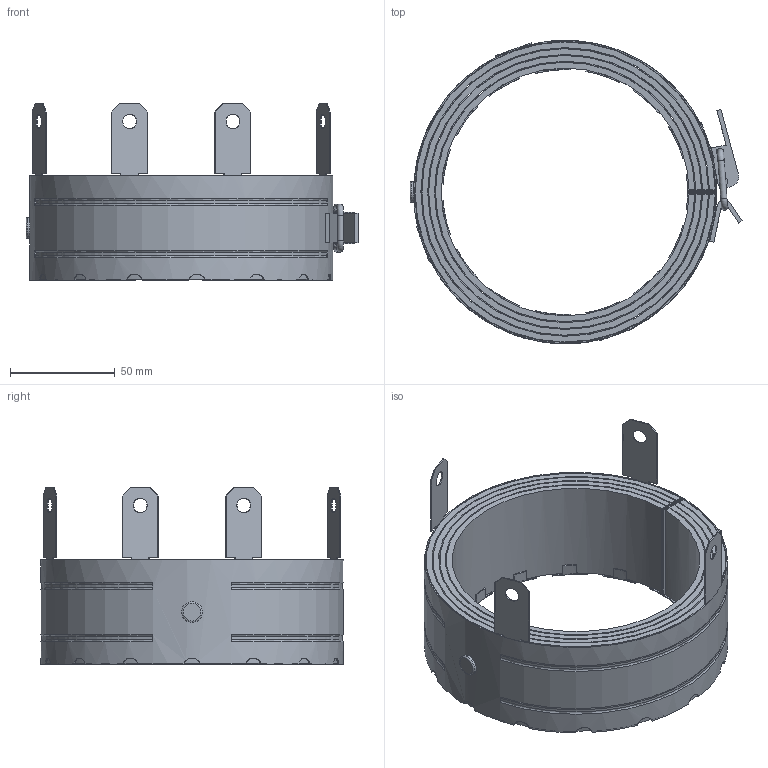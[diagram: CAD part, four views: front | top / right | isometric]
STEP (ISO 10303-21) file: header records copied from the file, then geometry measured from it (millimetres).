
FILE_DESCRIPTION(/* description */ (''),/* implementation_level */ '2;1');
FILE_NAME(/* name */ 'H:\Geberit-Teile\Export\RS90 plus\stp\348333.stp',/* time_stamp */ '2017-03-24T12:30:10+01:00',/* author */ ('seihe2'),/* organization */ (''),/* preprocessor_version */ 'ST-DEVELOPER v15.2',/* originating_system */ 'Autodesk Inventor 2014',/* authorisation */ '');
FILE_SCHEMA (('AUTOMOTIVE_DESIGN { 1 0 10303 214 3 1 1 }'));
Length unit declared in the file: millimetre
Products named in the file (1): 348333
Bounding box: 158.75 x 144.91 x 84.5 mm (x, y, z)
Volume: 240546.3 mm3; surface area: 231766.7 mm2
Topology: 3 solids, 3 shells, 398 faces, 1259 edges, 751 vertices
Faces by surface type: plane 303, cylinder 82, torus 13
Full cylindrical faces by diameter (mm): 3 x3, 3.5 x2, 4 x3, 7 x4, 10 x1
Entity records: 14923 total; most frequent: CARTESIAN_POINT 3095, ORIENTED_EDGE 2480, DIRECTION 2438, EDGE_CURVE 1236, AXIS2_PLACEMENT_3D 873, VERTEX_POINT 746, LINE 692, VECTOR 692
